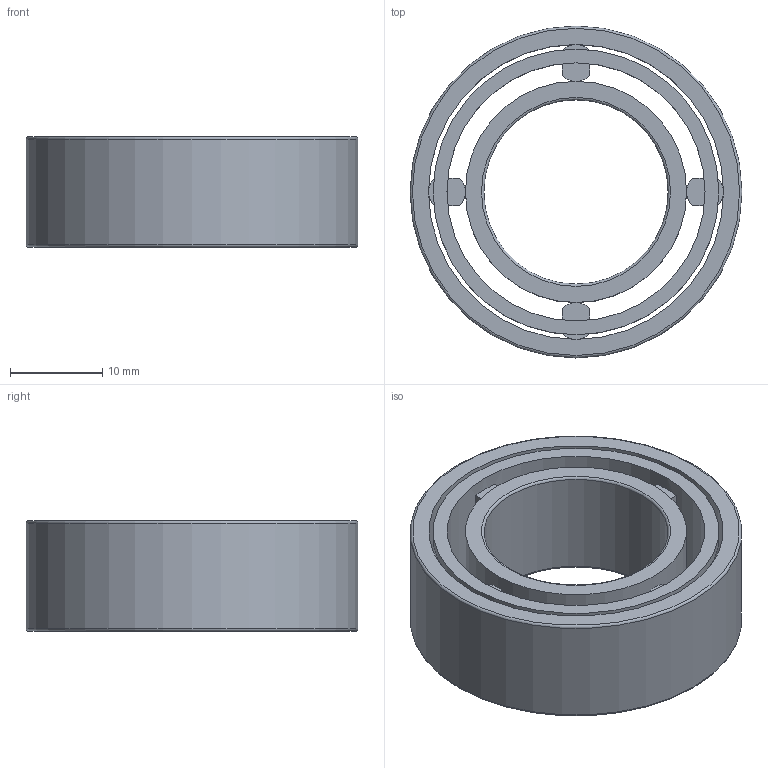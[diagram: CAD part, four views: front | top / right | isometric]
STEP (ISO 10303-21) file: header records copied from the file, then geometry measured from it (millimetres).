
FILE_DESCRIPTION(/* description */ (''),/* implementation_level */ '2;1');
FILE_NAME(/* name */ '300593 FR 432 M.stp',/* time_stamp */ '2016-11-03T15:51:22+01:00',/* author */ (''),/* organization */ (''),/* preprocessor_version */ 'ST-DEVELOPER v15',/* originating_system */ 'SIEMENS PLM Software NX 8.5',/* authorisation */ '');
FILE_SCHEMA (('CONFIG_CONTROL_DESIGN'));
Length unit declared in the file: millimetre
Products named in the file (2): ATE0000080_01; ATE0000084_01
Assembly tree (1 placements, depth 2):
  ATE0000084_01
    ATE0000080_01
Bounding box: 36 x 36 x 12 mm (x, y, z)
Volume: 5682.1 mm3; surface area: 7664.7 mm2
Topology: 3 solids, 3 shells, 60 faces, 134 edges, 88 vertices
Faces by surface type: plane 40, cylinder 16, torus 4
Full cylindrical faces by diameter (mm): 20 x1, 24 x1, 28 x1, 30 x1, 31 x2, 32 x1, 36 x1
Entity records: 1777 total; most frequent: DIRECTION 292, CARTESIAN_POINT 262, ORIENTED_EDGE 232, EDGE_CURVE 116, AXIS2_PLACEMENT_3D 114, EDGE_LOOP 88, VERTEX_POINT 84, LINE 64
